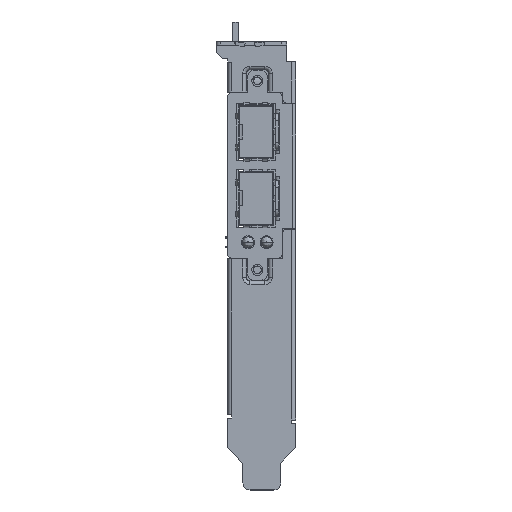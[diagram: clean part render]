
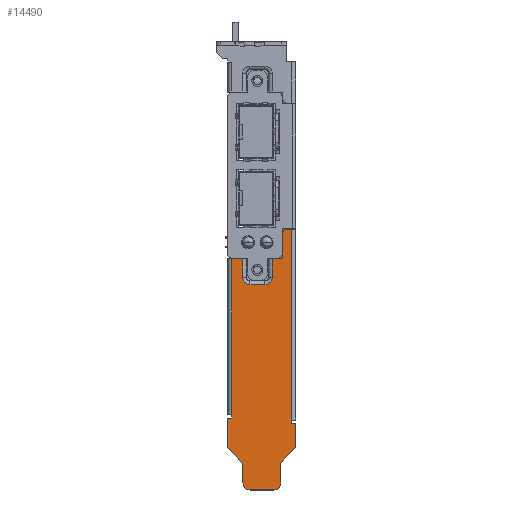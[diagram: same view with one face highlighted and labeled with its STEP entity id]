
A CAD part, top view. The second image highlights one B-rep face of the part: STEP entity #14490.
In plain terms, the highlighted planar face has unit normal (0, 0, 1).
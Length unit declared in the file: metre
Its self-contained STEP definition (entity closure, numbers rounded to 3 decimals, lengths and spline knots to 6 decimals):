
#972=DIRECTION('',(1.,0.,0.));
#973=VECTOR('',#972,0.0029);
#974=CARTESIAN_POINT('',(-0.000975,0.0345,0.04755));
#975=LINE('',#974,#973);
#1016=DIRECTION('',(1.,0.,0.));
#1017=VECTOR('',#1016,0.00288);
#1018=CARTESIAN_POINT('',(0.009925,0.0345,0.04755));
#1019=LINE('',#1018,#1017);
#1020=DIRECTION('',(0.,1.,0.));
#1021=VECTOR('',#1020,0.005);
#1022=CARTESIAN_POINT('',(0.009925,0.0295,0.04755));
#1023=LINE('',#1022,#1021);
#1028=CARTESIAN_POINT('',(0.013805,0.0415,0.04755));
#1029=DIRECTION('',(0.,0.,1.));
#1030=DIRECTION('',(0.,1.,0.));
#1031=AXIS2_PLACEMENT_3D('',#1028,#1029,#1030);
#1033=DIRECTION('',(-1.,0.,0.));
#1034=VECTOR('',#1033,0.00144);
#1035=CARTESIAN_POINT('',(0.015245,0.0425,0.04755));
#1036=LINE('',#1035,#1034);
#1037=DIRECTION('',(0.707,0.707,0.));
#1038=VECTOR('',#1037,0.005827);
#1039=CARTESIAN_POINT('',(0.012225,-0.02064,0.04755));
#1040=LINE('',#1039,#1038);
#1041=CARTESIAN_POINT('',(0.010315,-0.026,0.04755));
#1042=DIRECTION('',(0.,0.,1.));
#1043=DIRECTION('',(0.,-1.,0.));
#1044=AXIS2_PLACEMENT_3D('',#1041,#1042,#1043);
#1046=CARTESIAN_POINT('',(0.003945,-0.026,0.04755));
#1047=DIRECTION('',(0.,0.,1.));
#1048=DIRECTION('',(-1.,0.,0.));
#1049=AXIS2_PLACEMENT_3D('',#1046,#1047,#1048);
#1051=DIRECTION('',(0.707,-0.707,0.));
#1052=VECTOR('',#1051,0.005812);
#1053=CARTESIAN_POINT('',(-0.002075,-0.01653,0.04755));
#1054=LINE('',#1053,#1052);
#1055=CARTESIAN_POINT('',(0.003925,0.0295,0.04755));
#1056=DIRECTION('',(0.,0.,-1.));
#1057=DIRECTION('',(0.,-1.,0.));
#1058=AXIS2_PLACEMENT_3D('',#1055,#1056,#1057);
#1060=CARTESIAN_POINT('',(0.007925,0.0295,0.04755));
#1061=DIRECTION('',(0.,0.,-1.));
#1062=DIRECTION('',(1.,0.,0.));
#1063=AXIS2_PLACEMENT_3D('',#1060,#1061,#1062);
#1069=DIRECTION('',(0.,1.,0.));
#1070=VECTOR('',#1069,0.007);
#1071=CARTESIAN_POINT('',(0.012805,0.0345,0.04755));
#1072=LINE('',#1071,#1070);
#9158=DIRECTION('',(0.,-1.,0.));
#9159=VECTOR('',#9158,0.05152);
#9160=CARTESIAN_POINT('',(0.015245,0.0425,0.04755));
#9161=LINE('',#9160,#9159);
#9176=DIRECTION('',(0.,-1.,0.));
#9177=VECTOR('',#9176,0.001);
#9178=CARTESIAN_POINT('',(0.015245,-0.00902,0.04755));
#9179=LINE('',#9178,#9177);
#9188=DIRECTION('',(1.,0.,0.));
#9189=VECTOR('',#9188,0.0011);
#9190=CARTESIAN_POINT('',(0.015245,-0.01002,0.04755));
#9191=LINE('',#9190,#9189);
#9204=DIRECTION('',(0.,-1.,0.));
#9205=VECTOR('',#9204,0.0065);
#9206=CARTESIAN_POINT('',(0.016345,-0.01002,0.04755));
#9207=LINE('',#9206,#9205);
#9220=DIRECTION('',(0.,-1.,0.));
#9221=VECTOR('',#9220,0.00536);
#9222=CARTESIAN_POINT('',(0.012225,-0.02064,0.04755));
#9223=LINE('',#9222,#9221);
#9236=DIRECTION('',(-1.,0.,0.));
#9237=VECTOR('',#9236,0.00637);
#9238=CARTESIAN_POINT('',(0.010315,-0.02791,0.04755));
#9239=LINE('',#9238,#9237);
#9248=DIRECTION('',(0.,1.,0.));
#9249=VECTOR('',#9248,0.00536);
#9250=CARTESIAN_POINT('',(0.002035,-0.026,0.04755));
#9251=LINE('',#9250,#9249);
#9272=DIRECTION('',(0.,1.,0.));
#9273=VECTOR('',#9272,0.008);
#9274=CARTESIAN_POINT('',(-0.002075,-0.01653,0.04755));
#9275=LINE('',#9274,#9273);
#9280=DIRECTION('',(1.,0.,0.));
#9281=VECTOR('',#9280,0.0011);
#9282=CARTESIAN_POINT('',(-0.002075,-0.00853,0.04755));
#9283=LINE('',#9282,#9281);
#9292=DIRECTION('',(0.,1.,0.));
#9293=VECTOR('',#9292,0.001);
#9294=CARTESIAN_POINT('',(-0.000975,-0.00853,0.04755));
#9295=LINE('',#9294,#9293);
#9310=DIRECTION('',(0.,1.,0.));
#9311=VECTOR('',#9310,0.04203);
#9312=CARTESIAN_POINT('',(-0.000975,-0.00753,0.04755));
#9313=LINE('',#9312,#9311);
#9430=DIRECTION('',(0.,-1.,0.));
#9431=VECTOR('',#9430,0.005);
#9432=CARTESIAN_POINT('',(0.001925,0.0345,0.04755));
#9433=LINE('',#9432,#9431);
#9738=DIRECTION('',(1.,0.,0.));
#9739=VECTOR('',#9738,0.004);
#9740=CARTESIAN_POINT('',(0.003925,0.0275,0.04755));
#9741=LINE('',#9740,#9739);
#11393=CARTESIAN_POINT('',(0.013805,0.0425,0.04755));
#11395=VERTEX_POINT('',#11393);
#11399=CARTESIAN_POINT('',(0.015245,0.0425,0.04755));
#11400=VERTEX_POINT('',#11399);
#11401=CARTESIAN_POINT('',(0.012805,0.0415,0.04755));
#11402=VERTEX_POINT('',#11401);
#11405=CARTESIAN_POINT('',(0.015245,-0.00902,0.04755));
#11406=VERTEX_POINT('',#11405);
#11407=CARTESIAN_POINT('',(0.015245,-0.01002,0.04755));
#11408=VERTEX_POINT('',#11407);
#11409=CARTESIAN_POINT('',(0.016345,-0.01002,0.04755));
#11410=VERTEX_POINT('',#11409);
#11411=CARTESIAN_POINT('',(0.016345,-0.01652,0.04755));
#11412=VERTEX_POINT('',#11411);
#11413=CARTESIAN_POINT('',(0.012225,-0.02064,0.04755));
#11414=VERTEX_POINT('',#11413);
#11415=CARTESIAN_POINT('',(0.012225,-0.026,0.04755));
#11416=VERTEX_POINT('',#11415);
#11417=CARTESIAN_POINT('',(0.010315,-0.02791,0.04755));
#11418=VERTEX_POINT('',#11417);
#11419=CARTESIAN_POINT('',(0.003945,-0.02791,0.04755));
#11420=VERTEX_POINT('',#11419);
#11421=CARTESIAN_POINT('',(0.002035,-0.026,0.04755));
#11422=VERTEX_POINT('',#11421);
#11423=CARTESIAN_POINT('',(0.002035,-0.02064,0.04755));
#11424=VERTEX_POINT('',#11423);
#11425=CARTESIAN_POINT('',(-0.002075,-0.01653,0.04755));
#11426=VERTEX_POINT('',#11425);
#11427=CARTESIAN_POINT('',(-0.002075,-0.00853,0.04755));
#11428=VERTEX_POINT('',#11427);
#11429=CARTESIAN_POINT('',(-0.000975,-0.00853,0.04755));
#11430=VERTEX_POINT('',#11429);
#11431=CARTESIAN_POINT('',(-0.000975,-0.00753,0.04755));
#11432=VERTEX_POINT('',#11431);
#11433=CARTESIAN_POINT('',(-0.000975,0.0345,0.04755));
#11434=VERTEX_POINT('',#11433);
#11435=CARTESIAN_POINT('',(0.001925,0.0345,0.04755));
#11436=VERTEX_POINT('',#11435);
#11437=CARTESIAN_POINT('',(0.001925,0.0295,0.04755));
#11438=VERTEX_POINT('',#11437);
#11439=CARTESIAN_POINT('',(0.003925,0.0275,0.04755));
#11440=VERTEX_POINT('',#11439);
#11441=CARTESIAN_POINT('',(0.007925,0.0275,0.04755));
#11442=VERTEX_POINT('',#11441);
#11443=CARTESIAN_POINT('',(0.009925,0.0295,0.04755));
#11444=VERTEX_POINT('',#11443);
#11445=CARTESIAN_POINT('',(0.009925,0.0345,0.04755));
#11446=VERTEX_POINT('',#11445);
#11447=CARTESIAN_POINT('',(0.012805,0.0345,0.04755));
#11448=VERTEX_POINT('',#11447);
#14436=CARTESIAN_POINT('',(-0.005245,-0.02791,0.04755));
#14437=DIRECTION('',(0.,0.,-1.));
#14438=DIRECTION('',(-1.,0.,0.));
#14439=AXIS2_PLACEMENT_3D('',#14436,#14437,#14438);
#14440=PLANE('',#14439);
#14442=ORIENTED_EDGE('',*,*,#14441,.T.);
#14444=ORIENTED_EDGE('',*,*,#14443,.F.);
#14446=ORIENTED_EDGE('',*,*,#14445,.F.);
#14448=ORIENTED_EDGE('',*,*,#14447,.T.);
#14450=ORIENTED_EDGE('',*,*,#14449,.T.);
#14452=ORIENTED_EDGE('',*,*,#14451,.T.);
#14454=ORIENTED_EDGE('',*,*,#14453,.T.);
#14456=ORIENTED_EDGE('',*,*,#14455,.F.);
#14458=ORIENTED_EDGE('',*,*,#14457,.T.);
#14460=ORIENTED_EDGE('',*,*,#14459,.F.);
#14462=ORIENTED_EDGE('',*,*,#14461,.T.);
#14464=ORIENTED_EDGE('',*,*,#14463,.F.);
#14466=ORIENTED_EDGE('',*,*,#14465,.T.);
#14468=ORIENTED_EDGE('',*,*,#14467,.F.);
#14470=ORIENTED_EDGE('',*,*,#14469,.T.);
#14472=ORIENTED_EDGE('',*,*,#14471,.T.);
#14474=ORIENTED_EDGE('',*,*,#14473,.T.);
#14476=ORIENTED_EDGE('',*,*,#14475,.T.);
#14477=ORIENTED_EDGE('',*,*,#14379,.T.);
#14479=ORIENTED_EDGE('',*,*,#14478,.T.);
#14481=ORIENTED_EDGE('',*,*,#14480,.F.);
#14483=ORIENTED_EDGE('',*,*,#14482,.T.);
#14485=ORIENTED_EDGE('',*,*,#14484,.F.);
#14486=ORIENTED_EDGE('',*,*,#14420,.T.);
#14487=ORIENTED_EDGE('',*,*,#14402,.T.);
#14488=EDGE_LOOP('',(#14442,#14444,#14446,#14448,#14450,#14452,#14454,#14456,
#14458,#14460,#14462,#14464,#14466,#14468,#14470,#14472,#14474,#14476,#14477,
#14479,#14481,#14483,#14485,#14486,#14487));
#14489=FACE_OUTER_BOUND('',#14488,.F.);
#1032=CIRCLE('',#1031,0.001);
#1045=CIRCLE('',#1044,0.00191);
#1050=CIRCLE('',#1049,0.00191);
#1059=CIRCLE('',#1058,0.002);
#1064=CIRCLE('',#1063,0.002);
#14379=EDGE_CURVE('',#11434,#11436,#975,.T.);
#14402=EDGE_CURVE('',#11446,#11448,#1019,.T.);
#14420=EDGE_CURVE('',#11444,#11446,#1023,.T.);
#14441=EDGE_CURVE('',#11448,#11402,#1072,.T.);
#14443=EDGE_CURVE('',#11395,#11402,#1032,.T.);
#14445=EDGE_CURVE('',#11400,#11395,#1036,.T.);
#14447=EDGE_CURVE('',#11400,#11406,#9161,.T.);
#14449=EDGE_CURVE('',#11406,#11408,#9179,.T.);
#14451=EDGE_CURVE('',#11408,#11410,#9191,.T.);
#14453=EDGE_CURVE('',#11410,#11412,#9207,.T.);
#14455=EDGE_CURVE('',#11414,#11412,#1040,.T.);
#14457=EDGE_CURVE('',#11414,#11416,#9223,.T.);
#14459=EDGE_CURVE('',#11418,#11416,#1045,.T.);
#14461=EDGE_CURVE('',#11418,#11420,#9239,.T.);
#14463=EDGE_CURVE('',#11422,#11420,#1050,.T.);
#14465=EDGE_CURVE('',#11422,#11424,#9251,.T.);
#14467=EDGE_CURVE('',#11426,#11424,#1054,.T.);
#14469=EDGE_CURVE('',#11426,#11428,#9275,.T.);
#14471=EDGE_CURVE('',#11428,#11430,#9283,.T.);
#14473=EDGE_CURVE('',#11430,#11432,#9295,.T.);
#14475=EDGE_CURVE('',#11432,#11434,#9313,.T.);
#14478=EDGE_CURVE('',#11436,#11438,#9433,.T.);
#14480=EDGE_CURVE('',#11440,#11438,#1059,.T.);
#14482=EDGE_CURVE('',#11440,#11442,#9741,.T.);
#14484=EDGE_CURVE('',#11444,#11442,#1064,.T.);
#14490=ADVANCED_FACE('',(#14489),#14440,.F.);
